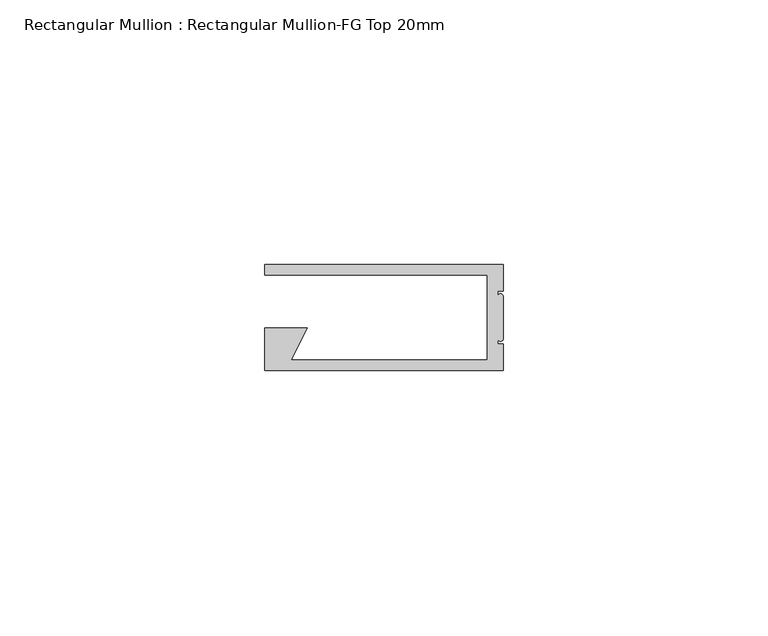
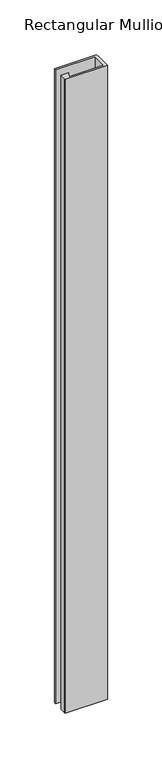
"""IFC4 building model written with IfcOpenShell, lengths in millimetres: member geometry, Rectangular Mullion : Rectangular Mullion-FG Top 20mm."""

from ifc_helpers import new_model, si_unit, frame, origin, place, context, project, spatial, circle_curve, source, transform, mapped, element, save
from ifc_brep_helpers import plane_surface, cylinder_surface, advanced_brep


def rectangular_mullion_rectangular_mullion_fg_top_20mm_9133186d(model_context):
    return source(origin(), model_context, "Body", "AdvancedBrep", [
        advanced_brep(
        [(0.0, -5.0, 0.0), (0.0, 0.0, 0.0), (-45.0, 0.0, 0.0), (-45.0, -2.0, 0.0), (-3.0, -2.0, 0.0), (-3.0, -18.0, 0.0), (-40.0, -18.0, 0.0), (-37.0, -12.0, 0.0), (-45.0, -12.0, 0.0), (-45.0, -18.0, 0.0), (-45.0, -20.0, 0.0), (0.0, -20.0, 0.0), (0.0, -15.0, 0.0), (-1.0, -15.0, 0.0), (-1.0, -14.0, 0.0), (0.0, -14.0, 0.0), (0.0, -6.0, 0.0), (-1.0, -6.0, 0.0), (-1.0, -5.0, 0.0), (0.0, -5.0, -710.0), (-1.0, -5.0, -710.0), (-1.0, -6.0, -710.0), (0.0, -6.0, -710.0), (0.0, -14.0, -710.0), (-1.0, -14.0, -710.0), (-1.0, -15.0, -710.0), (0.0, -15.0, -710.0), (0.0, -20.0, -710.0), (-45.0, -20.0, -710.0), (-45.0, -18.0, -710.0), (-45.0, -12.0, -710.0), (-37.0, -12.0, -710.0), (-40.0, -18.0, -710.0), (-3.0, -18.0, -710.0), (-3.0, -2.0, -710.0), (-45.0, -2.0, -710.0), (-45.0, 0.0, -710.0), (0.0, 0.0, -710.0)],
        [
            (0, 1),
            (1, 2),
            (2, 3),
            (3, 4),
            (4, 5),
            (5, 6),
            (6, 7),
            (7, 8),
            (8, 9),
            (9, 10),
            (10, 11),
            (11, 12),
            (12, 13),
            (13, 14),
            (14, 15, circle_curve(frame((-0.5, -14.0, 0.0), z_axis=(0.0, 0.0, 1.0), x_axis=(1.0, 0.0, 0.0)), 0.5)),
            (15, 16),
            (16, 17, circle_curve(frame((-0.5, -6.0, 0.0), z_axis=(0.0, 0.0, 1.0), x_axis=(1.0, 0.0, 0.0)), 0.5)),
            (17, 18),
            (18, 0),
            (19, 20),
            (20, 21),
            (21, 22, circle_curve(frame((-0.5, -6.0, -710.0), z_axis=(0.0, 0.0, -1.0), x_axis=(1.0, 0.0, 0.0)), 0.5)),
            (22, 23),
            (23, 24, circle_curve(frame((-0.5, -14.0, -710.0), z_axis=(0.0, 0.0, -1.0), x_axis=(1.0, 0.0, 0.0)), 0.5)),
            (24, 25),
            (25, 26),
            (26, 27),
            (27, 28),
            (28, 29),
            (29, 30),
            (30, 31),
            (31, 32),
            (32, 33),
            (33, 34),
            (34, 35),
            (35, 36),
            (36, 37),
            (37, 19),
            (0, 19),
            (37, 1),
            (36, 2),
            (35, 3),
            (34, 4),
            (33, 5),
            (32, 6),
            (31, 7),
            (30, 8),
            (29, 9),
            (28, 10),
            (27, 11),
            (26, 12),
            (25, 13),
            (24, 14),
            (23, 15),
            (22, 16),
            (21, 17),
            (20, 18),
        ],
        [
            plane_surface(frame((0.0, -49.244289, 0.0), z_axis=(0.0, 0.0, 1.0), x_axis=(-1.0, 0.0, 0.0))),
            plane_surface(frame((0.0, -49.244289, -710.0), z_axis=(0.0, 0.0, -1.0), x_axis=(-1.0, 0.0, 0.0))),
            plane_surface(frame((0.0, -5.0, 0.0), z_axis=(1.0, 0.0, 0.0), x_axis=(0.0, 0.0, -1.0))),
            plane_surface(frame((0.0, 0.0, 0.0), z_axis=(0.0, 1.0, 0.0), x_axis=(0.0, 0.0, -1.0))),
            plane_surface(frame((-45.0, 0.0, 0.0), z_axis=(-1.0, 0.0, 0.0), x_axis=(0.0, 0.0, -1.0))),
            plane_surface(frame((-45.0, -2.0, 0.0), z_axis=(0.0, -1.0, 0.0), x_axis=(0.0, 0.0, -1.0))),
            plane_surface(frame((-3.0, -2.0, 0.0), z_axis=(-1.0, 0.0, 0.0), x_axis=(0.0, 0.0, -1.0))),
            plane_surface(frame((-3.0, -18.0, 0.0), z_axis=(0.0, 1.0, 0.0), x_axis=(0.0, 0.0, -1.0))),
            plane_surface(frame((-40.0, -18.0, 0.0), z_axis=(0.8944271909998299, -0.4472135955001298, 0.0), x_axis=(0.0, 0.0, -1.0))),
            plane_surface(frame((-37.0, -12.0, 0.0), z_axis=(0.0, 1.0, 0.0), x_axis=(0.0, 0.0, -1.0))),
            plane_surface(frame((-45.0, -12.0, 0.0), z_axis=(-1.0, 0.0, 0.0), x_axis=(0.0, 0.0, -1.0))),
            plane_surface(frame((-45.0, -18.0, 0.0), z_axis=(-1.0, 0.0, 0.0), x_axis=(0.0, 0.0, -1.0))),
            plane_surface(frame((-45.0, -20.0, 0.0), z_axis=(0.0, -1.0, 0.0), x_axis=(0.0, 0.0, -1.0))),
            plane_surface(frame((0.0, -20.0, 0.0), z_axis=(1.0, 0.0, 0.0), x_axis=(0.0, 0.0, -1.0))),
            plane_surface(frame((0.0, -15.0, 0.0), z_axis=(0.0, 1.0, 0.0), x_axis=(0.0, 0.0, -1.0))),
            plane_surface(frame((-1.0, -15.0, 0.0), z_axis=(1.0, 0.0, 0.0), x_axis=(0.0, 0.0, -1.0))),
            cylinder_surface(frame((-0.5, -14.0, 0.0), z_axis=(0.0, 0.0, 1.0), x_axis=(1.0, 0.0, 0.0)), 0.5),
            plane_surface(frame((0.0, -14.0, 0.0), z_axis=(1.0, 0.0, 0.0), x_axis=(0.0, 0.0, -1.0))),
            cylinder_surface(frame((-0.5, -6.0, 0.0), z_axis=(0.0, 0.0, 1.0), x_axis=(1.0, 0.0, 0.0)), 0.5),
            plane_surface(frame((-1.0, -6.0, 0.0), z_axis=(1.0, 0.0, 0.0), x_axis=(0.0, 0.0, -1.0))),
            plane_surface(frame((-1.0, -5.0, 0.0), z_axis=(0.0, -1.0, 0.0), x_axis=(0.0, 0.0, -1.0))),
        ],
        [
            (0, [[1, 2, 3, 4, 5, 6, 7, 8, 9, 10, 11, 12, 13, 14, 15, 16, 17, 18, 19]]),
            (1, [[20, 21, 22, 23, 24, 25, 26, 27, 28, 29, 30, 31, 32, 33, 34, 35, 36, 37, 38]]),
            (2, [[-1, 39, -38, 40]]),
            (3, [[-2, -40, -37, 41]]),
            (4, [[-3, -41, -36, 42]]),
            (5, [[-4, -42, -35, 43]]),
            (6, [[-5, -43, -34, 44]]),
            (7, [[-6, -44, -33, 45]]),
            (8, [[-7, -45, -32, 46]]),
            (9, [[-8, -46, -31, 47]]),
            (10, [[-9, -47, -30, 48]]),
            (11, [[-10, -48, -29, 49]]),
            (12, [[-11, -49, -28, 50]]),
            (13, [[-12, -50, -27, 51]]),
            (14, [[-13, -51, -26, 52]]),
            (15, [[-14, -52, -25, 53]]),
            (16, [[-15, -53, -24, 54]]),
            (17, [[-16, -54, -23, 55]]),
            (18, [[-17, -55, -22, 56]]),
            (19, [[-18, -56, -21, 57]]),
            (20, [[-19, -57, -20, -39]]),
        ],
    ),
    ])


if __name__ == "__main__":
    model = new_model("IFC4")
    model_context = context("Model", 3, world=origin())
    ifc_project = project(units=[si_unit("LENGTHUNIT", "METRE", prefix="MILLI")], contexts=[model_context])
    site = spatial("IfcSite", under=ifc_project)
    building = spatial("IfcBuilding", under=site)
    placement = place(None, origin())
    rectangular_mullion_rectangular_mullion_fg_top_20mm_shape = rectangular_mullion_rectangular_mullion_fg_top_20mm_9133186d(model_context)
    element("IfcMember", 1, ObjectType="Rectangular Mullion : Rectangular Mullion-FG Top 20mm", at=placement, inside=building, context=model_context, shape_type="MappedRepresentation", body=[
        mapped(rectangular_mullion_rectangular_mullion_fg_top_20mm_shape, transform((0.0, 0.0, 0.0), x_axis=(1.0, 0.0, 0.0), y_axis=(0.0, 1.0, 0.0), z_axis=(0.0, 0.0, 1.0))),
    ])
    save(model, "model.ifc")
